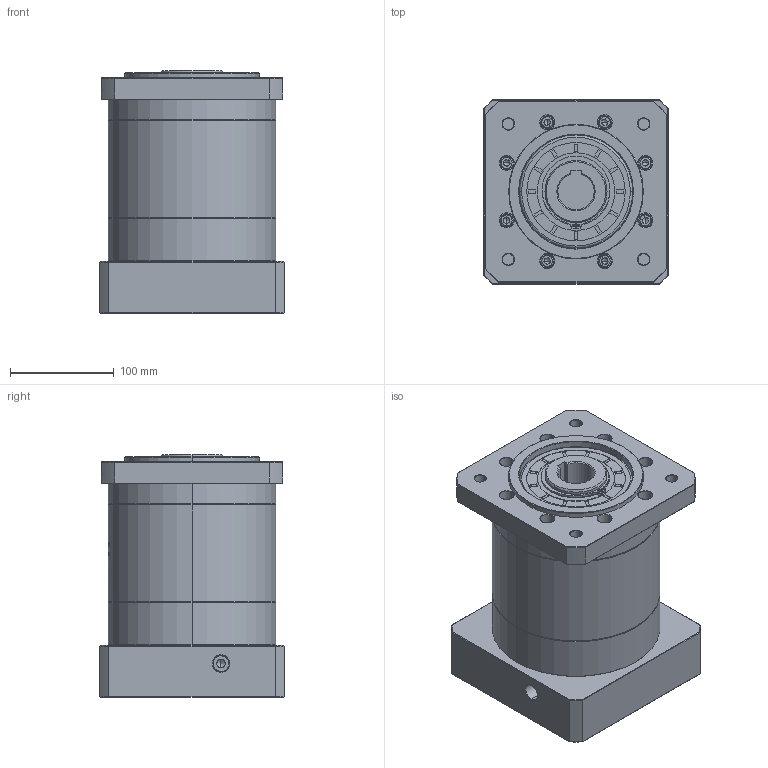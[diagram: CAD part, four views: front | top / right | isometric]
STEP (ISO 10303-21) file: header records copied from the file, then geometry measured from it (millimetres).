
FILE_DESCRIPTION (( 'STEP AP214' ), '1' );
FILE_NAME ('ZF160-K35-L2-35-150-200-M12.step', '2023-03-21T04:32:58', ( '' ), ( '' ), 'SwSTEP 2.0', 'SolidWorks 2016', '' );
FILE_SCHEMA (( 'AUTOMOTIVE_DESIGN' ));
Length unit declared in the file: millimetre
Products named in the file (1): ZF160-K35-L2-35-150-200-M12
Bounding box: 178 x 178 x 234.2 mm (x, y, z)
Volume: 4917845.7 mm3; surface area: 356333.6 mm2
Topology: 6 solids, 6 shells, 1559 faces, 4052 edges, 2596 vertices
Faces by surface type: plane 637, cylinder 371, cone 320, bspline 211, torus 20
Entity records: 86561 total; most frequent: CARTESIAN_POINT 33156, ORIENTED_EDGE 8048, DIRECTION 6895, EDGE_CURVE 4024, VERTEX_POINT 2596, AXIS2_PLACEMENT_3D 2389, LINE 2117, VECTOR 2117
